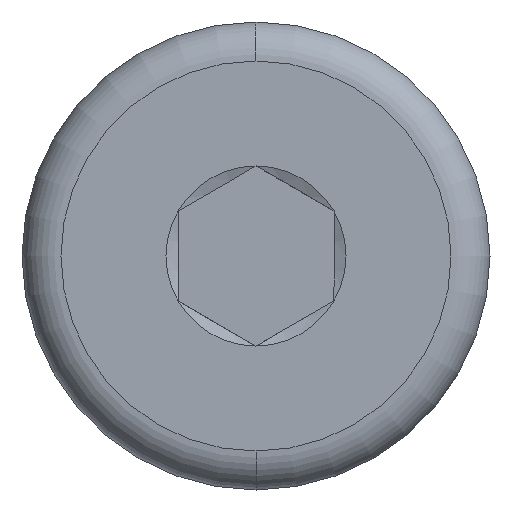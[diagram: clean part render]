
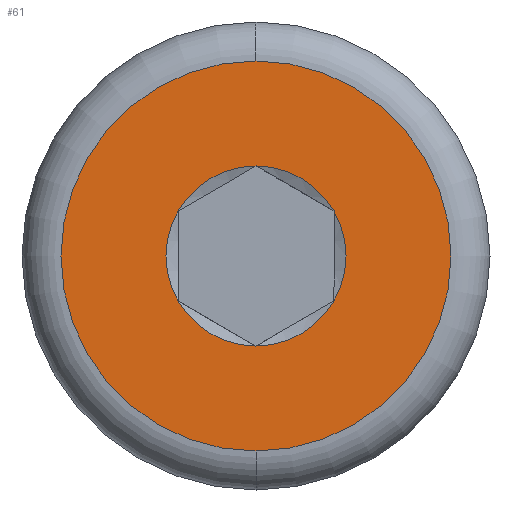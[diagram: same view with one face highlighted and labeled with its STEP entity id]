
A CAD part, left-side view. The second image highlights one B-rep face of the part: STEP entity #61.
In plain terms, the highlighted planar face has unit normal (-1, 0, 0).
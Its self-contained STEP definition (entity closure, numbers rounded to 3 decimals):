
#5 = CIRCLE ( 'NONE', #283, 1.155 ) ;
#8 = VERTEX_POINT ( 'NONE', #611 ) ;
#31 = EDGE_CURVE ( 'NONE', #357, #536, #241, .T. ) ;
#35 = DIRECTION ( 'NONE',  ( 1., 0., 0. ) ) ;
#48 = DIRECTION ( 'NONE',  ( 1., 0., 0. ) ) ;
#61 = ADVANCED_FACE ( 'NONE', ( #79, #345 ), #498, .T. ) ;
#79 = FACE_BOUND ( 'NONE', #286, .T. ) ;
#81 = DIRECTION ( 'NONE',  ( -1., 0., 0. ) ) ;
#84 = DIRECTION ( 'NONE',  ( 1., 0., 0. ) ) ;
#88 = DIRECTION ( 'NONE',  ( 1., 0., 0. ) ) ;
#97 = CIRCLE ( 'NONE', #383, 2.5 ) ;
#105 = AXIS2_PLACEMENT_3D ( 'NONE', #353, #192, #455 ) ;
#114 = DIRECTION ( 'NONE',  ( 1., 0., 0. ) ) ;
#118 = CARTESIAN_POINT ( 'NONE',  ( 0., 0., 0. ) ) ;
#119 = CIRCLE ( 'NONE', #578, 1.155 ) ;
#126 = ORIENTED_EDGE ( 'NONE', *, *, #442, .T. ) ;
#134 = ORIENTED_EDGE ( 'NONE', *, *, #478, .T. ) ;
#159 = CARTESIAN_POINT ( 'NONE',  ( 0., -1., 0.577 ) ) ;
#167 = CARTESIAN_POINT ( 'NONE',  ( 0., 0., -1.155 ) ) ;
#168 = DIRECTION ( 'NONE',  ( 0., 0., -1. ) ) ;
#192 = DIRECTION ( 'NONE',  ( 1., 0., 0. ) ) ;
#211 = CARTESIAN_POINT ( 'NONE',  ( 0., 0., 0. ) ) ;
#237 = ORIENTED_EDGE ( 'NONE', *, *, #259, .F. ) ;
#241 = CIRCLE ( 'NONE', #105, 2.5 ) ;
#251 = CIRCLE ( 'NONE', #350, 1.155 ) ;
#252 = DIRECTION ( 'NONE',  ( 0., 0., -1. ) ) ;
#254 = ORIENTED_EDGE ( 'NONE', *, *, #625, .T. ) ;
#258 = CARTESIAN_POINT ( 'NONE',  ( 0., 0., -2.5 ) ) ;
#259 = EDGE_CURVE ( 'NONE', #536, #357, #97, .T. ) ;
#283 = AXIS2_PLACEMENT_3D ( 'NONE', #509, #35, #252 ) ;
#286 = EDGE_LOOP ( 'NONE', ( #320, #126, #134, #588, #254, #341 ) ) ;
#288 = EDGE_LOOP ( 'NONE', ( #237, #327 ) ) ;
#299 = DIRECTION ( 'NONE',  ( 0., 0., -1. ) ) ;
#318 = DIRECTION ( 'NONE',  ( 0., 0., -1. ) ) ;
#320 = ORIENTED_EDGE ( 'NONE', *, *, #556, .T. ) ;
#327 = ORIENTED_EDGE ( 'NONE', *, *, #31, .F. ) ;
#330 = CARTESIAN_POINT ( 'NONE',  ( 0., 0., 1.155 ) ) ;
#335 = VERTEX_POINT ( 'NONE', #344 ) ;
#341 = ORIENTED_EDGE ( 'NONE', *, *, #679, .T. ) ;
#344 = CARTESIAN_POINT ( 'NONE',  ( 0., -1., -0.577 ) ) ;
#345 = FACE_OUTER_BOUND ( 'NONE', #288, .T. ) ;
#350 = AXIS2_PLACEMENT_3D ( 'NONE', #211, #528, #168 ) ;
#351 = CARTESIAN_POINT ( 'NONE',  ( 0., 0., 0. ) ) ;
#353 = CARTESIAN_POINT ( 'NONE',  ( 0., 0., 0. ) ) ;
#357 = VERTEX_POINT ( 'NONE', #594 ) ;
#362 = DIRECTION ( 'NONE',  ( 1., 0., 0. ) ) ;
#369 = VERTEX_POINT ( 'NONE', #167 ) ;
#383 = AXIS2_PLACEMENT_3D ( 'NONE', #118, #84, #384 ) ;
#384 = DIRECTION ( 'NONE',  ( 0., 0., -1. ) ) ;
#417 = VERTEX_POINT ( 'NONE', #330 ) ;
#426 = AXIS2_PLACEMENT_3D ( 'NONE', #351, #88, #299 ) ;
#442 = EDGE_CURVE ( 'NONE', #417, #658, #482, .T. ) ;
#453 = VERTEX_POINT ( 'NONE', #614 ) ;
#455 = DIRECTION ( 'NONE',  ( 0., 0., -1. ) ) ;
#465 = DIRECTION ( 'NONE',  ( 0., 0., -1. ) ) ;
#478 = EDGE_CURVE ( 'NONE', #658, #335, #119, .T. ) ;
#482 = CIRCLE ( 'NONE', #603, 1.155 ) ;
#498 = PLANE ( 'NONE',  #663 ) ;
#509 = CARTESIAN_POINT ( 'NONE',  ( 0., 0., 0. ) ) ;
#523 = CIRCLE ( 'NONE', #628, 1.155 ) ;
#528 = DIRECTION ( 'NONE',  ( 1., 0., 0. ) ) ;
#536 = VERTEX_POINT ( 'NONE', #258 ) ;
#545 = CIRCLE ( 'NONE', #426, 1.155 ) ;
#550 = CARTESIAN_POINT ( 'NONE',  ( 0., 0., 0. ) ) ;
#556 = EDGE_CURVE ( 'NONE', #8, #417, #545, .T. ) ;
#558 = DIRECTION ( 'NONE',  ( 0., 0., -1. ) ) ;
#566 = EDGE_CURVE ( 'NONE', #335, #369, #5, .T. ) ;
#574 = CARTESIAN_POINT ( 'NONE',  ( 0., 0., 0. ) ) ;
#578 = AXIS2_PLACEMENT_3D ( 'NONE', #612, #48, #558 ) ;
#588 = ORIENTED_EDGE ( 'NONE', *, *, #566, .T. ) ;
#594 = CARTESIAN_POINT ( 'NONE',  ( 0., 0., 2.5 ) ) ;
#603 = AXIS2_PLACEMENT_3D ( 'NONE', #669, #362, #465 ) ;
#608 = DIRECTION ( 'NONE',  ( 0., 0., 1. ) ) ;
#611 = CARTESIAN_POINT ( 'NONE',  ( 0., 1., 0.577 ) ) ;
#612 = CARTESIAN_POINT ( 'NONE',  ( 0., 0., 0. ) ) ;
#614 = CARTESIAN_POINT ( 'NONE',  ( 0., 1., -0.577 ) ) ;
#625 = EDGE_CURVE ( 'NONE', #369, #453, #251, .T. ) ;
#628 = AXIS2_PLACEMENT_3D ( 'NONE', #574, #114, #318 ) ;
#658 = VERTEX_POINT ( 'NONE', #159 ) ;
#663 = AXIS2_PLACEMENT_3D ( 'NONE', #550, #81, #608 ) ;
#669 = CARTESIAN_POINT ( 'NONE',  ( 0., 0., 0. ) ) ;
#679 = EDGE_CURVE ( 'NONE', #453, #8, #523, .T. ) ;
